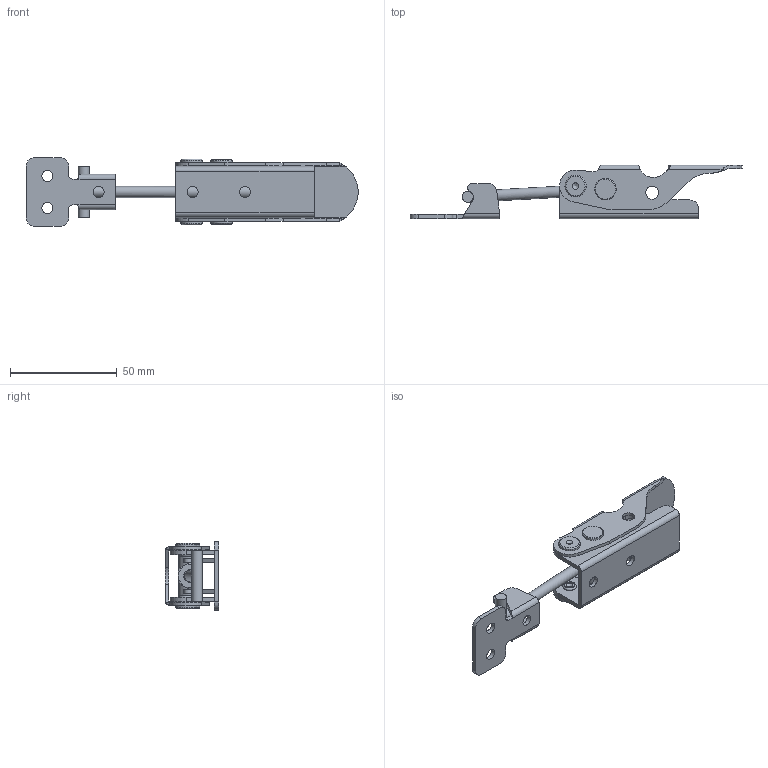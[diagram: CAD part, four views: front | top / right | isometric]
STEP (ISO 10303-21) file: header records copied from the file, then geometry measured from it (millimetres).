
FILE_DESCRIPTION(/* description */ ('STEP AP214'),/* implementation_level */ '2;1');
FILE_NAME(/* name */ 'Toggle Latch_ Stainless Steel GN 761-200-T-NI (closed-0)',/* time_stamp */ '2023-09-25T13:22:49+02:00',/* author */ ('License CC BY-ND 4.0'),/* organization */ ('CADENAS'),/* preprocessor_version */ 'ST-DEVELOPER v19.3',/* originating_system */ 'PARTsolutions',/* authorisation */ ' ');
FILE_SCHEMA (('AUTOMOTIVE_DESIGN {1 0 10303 214 3 1 1}'));
Length unit declared in the file: millimetre
Products named in the file (6): Toggle Latch, Stainless Steel GN 761-200-T-NI (closed-0); Toggle Latch GN 761-200-T-NI-3; Toggle Latch GN 761-200-T-NI (0-0)-5; Toggle Latch GN 761-200-T-NI (0)-6; Toggle Latch GN 761-200-T-NI (0)-2; Toggle Latch GN 761-200-T-NI-1
Assembly tree (5 placements, depth 2):
  Toggle Latch, Stainless Steel GN 761-200-T-NI (closed-0)
    Toggle Latch GN 761-200-T-NI-3
    Toggle Latch GN 761-200-T-NI (0-0)-5
    Toggle Latch GN 761-200-T-NI (0)-6
    Toggle Latch GN 761-200-T-NI (0)-2
    Toggle Latch GN 761-200-T-NI-1
Bounding box: 155.45 x 24.98 x 32 mm (x, y, z)
Volume: 17938.4 mm3; surface area: 20020.1 mm2
Topology: 5 solids, 5 shells, 233 faces, 615 edges, 404 vertices
Faces by surface type: plane 102, cylinder 102, cone 25, torus 4
Full cylindrical faces by diameter (mm): 1 x2, 4.917 x2, 5 x2, 5.05 x2, 5.2 x7, 6 x3, 6.34 x2, 6.5 x4, 10 x5
Entity records: 7180 total; most frequent: CARTESIAN_POINT 1366, DIRECTION 1207, ORIENTED_EDGE 1098, EDGE_CURVE 549, AXIS2_PLACEMENT_3D 463, VERTEX_POINT 390, FACE_BOUND 329, EDGE_LOOP 325
